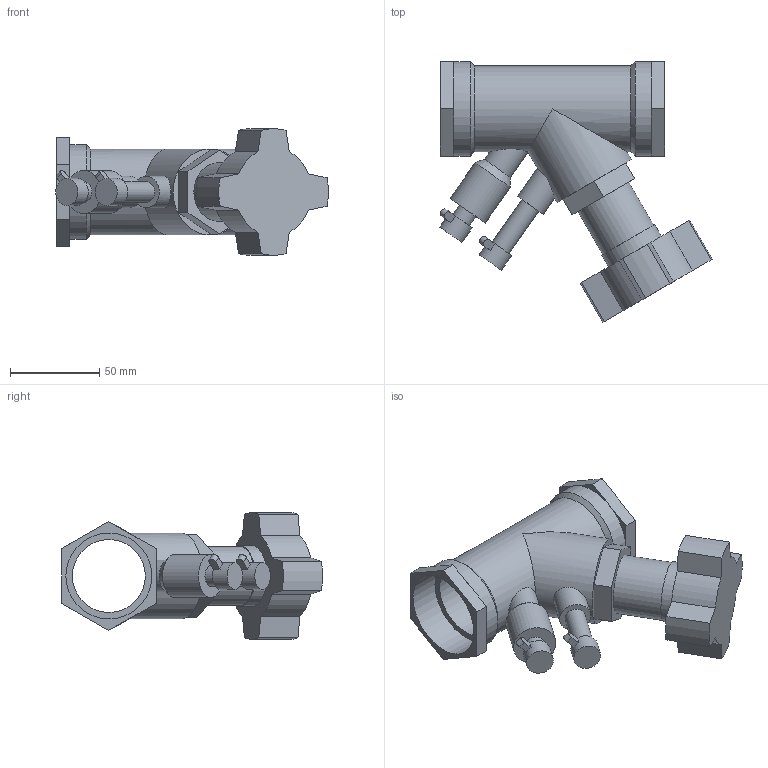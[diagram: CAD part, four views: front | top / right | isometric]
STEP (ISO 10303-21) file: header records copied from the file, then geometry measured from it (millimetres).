
FILE_DESCRIPTION(/* description */ ('VIC VALVE BALANCING TA SERIES 790 (FPT)-POTABLE WATER','CAx-IF Rec.Pracs.---Representation and Presentation of Product Manufacturing Information (PMI)---4.0---2014-10-13'),/* implementation_level */ '2;1');
FILE_NAME(/* name */ 'C:\Users\Vjadhav\Desktop\CAD for Inventor\1\790, 76X\STEP\Victaulic_IPS_Valve Balancing_TA Series 790 (FPT)-Potable Water\Victaulic_IPS_Valve Balancing_TA Series 790 (FPT)-Potable Water_1.5 (40).stp',/* time_stamp */ '2021-08-02T10:58:56+05:00',/* author */ ('cps_temp'),/* organization */ ('Victaulic'),/* preprocessor_version */ 'ST-DEVELOPER v17.2',/* originating_system */ 'Autodesk Inventor 2019',/* authorisation */ '');
FILE_SCHEMA (('AP242_MANAGED_MODEL_BASED_3D_ENGINEERING_MIM_LF { 1 0 10303 442 1 1 4 }'));
Length unit declared in the file: inch
Products named in the file (1): 790-01.5
Bounding box: 153.06 x 146.34 x 70.91 mm (x, y, z)
Volume: 248121.5 mm3; surface area: 65015.2 mm2
Topology: 1 solids, 1 shells, 88 faces, 222 edges, 147 vertices
Faces by surface type: plane 59, cylinder 26, cone 3
Full cylindrical faces by diameter (mm): 11.43 x2, 15.24 x2, 17.78 x2, 24.13 x1, 33.02 x1, 34.29 x1, 40.894 x1, 48.26 x4, 53.01 x2
Entity records: 2982 total; most frequent: CARTESIAN_POINT 554, DIRECTION 502, ORIENTED_EDGE 444, EDGE_CURVE 222, AXIS2_PLACEMENT_3D 184, VERTEX_POINT 147, LINE 134, VECTOR 134
